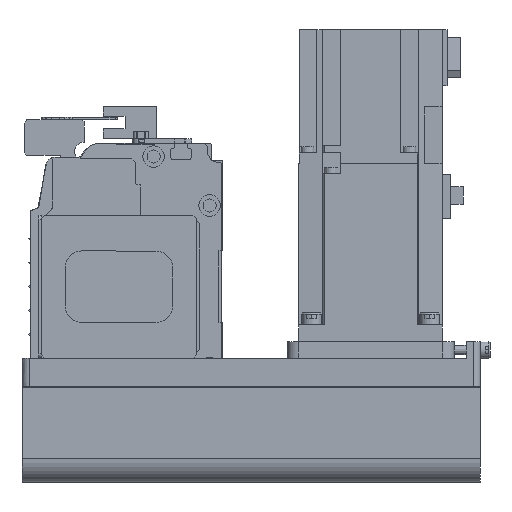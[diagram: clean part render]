
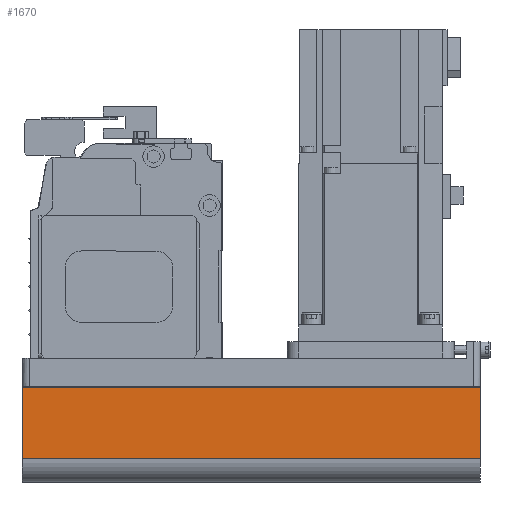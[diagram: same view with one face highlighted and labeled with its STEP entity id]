
A CAD part, left-side view. The second image highlights one B-rep face of the part: STEP entity #1670.
In plain terms, the highlighted planar face has unit normal (-1, 0, 0) as drawn and (0, 1, 0) by its records, which use the part's own axes.
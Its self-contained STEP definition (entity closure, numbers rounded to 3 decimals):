
#1670 = ADVANCED_FACE( '', ( #3730 ), #3731, .T. );
#3730 = FACE_OUTER_BOUND( '', #6218, .T. );
#3731 = PLANE( '', #6219 );
#6218 = EDGE_LOOP( '', ( #10837, #10838, #10839, #10840 ) );
#6219 = AXIS2_PLACEMENT_3D( '', #10841, #10842, #10843 );
#10837 = ORIENTED_EDGE( '', *, *, #15732, .F. );
#10838 = ORIENTED_EDGE( '', *, *, #14709, .F. );
#10839 = ORIENTED_EDGE( '', *, *, #15402, .T. );
#10840 = ORIENTED_EDGE( '', *, *, #15379, .T. );
#10841 = CARTESIAN_POINT( '', ( -192., 40., -42. ) );
#10842 = DIRECTION( '', ( 0., 1., 0. ) );
#10843 = DIRECTION( '', ( 0., 0., 1. ) );
#14709 = EDGE_CURVE( '', #17774, #17770, #17776, .T. );
#15379 = EDGE_CURVE( '', #18803, #18804, #18805, .T. );
#15402 = EDGE_CURVE( '', #17774, #18803, #18836, .T. );
#15732 = EDGE_CURVE( '', #17770, #18804, #19312, .T. );
#17770 = VERTEX_POINT( '', #21930 );
#17774 = VERTEX_POINT( '', #21935 );
#17776 = LINE( '', #21937, #21938 );
#18803 = VERTEX_POINT( '', #23312 );
#18804 = VERTEX_POINT( '', #23313 );
#18805 = LINE( '', #23314, #23315 );
#18836 = LINE( '', #23363, #23364 );
#19312 = LINE( '', #24007, #24008 );
#21930 = CARTESIAN_POINT( '', ( 0., 40., -42. ) );
#21935 = CARTESIAN_POINT( '', ( -192., 40., -42. ) );
#21937 = CARTESIAN_POINT( '', ( -192., 40., -42. ) );
#21938 = VECTOR( '', #26152, 1000. );
#23312 = CARTESIAN_POINT( '', ( -192., 40., -12.1 ) );
#23313 = CARTESIAN_POINT( '', ( 0., 40., -12.1 ) );
#23314 = CARTESIAN_POINT( '', ( -192., 40., -12.1 ) );
#23315 = VECTOR( '', #27001, 1000. );
#23363 = CARTESIAN_POINT( '', ( -192., 40., -42. ) );
#23364 = VECTOR( '', #27019, 1000. );
#24007 = CARTESIAN_POINT( '', ( 0., 40., -42. ) );
#24008 = VECTOR( '', #27427, 1000. );
#26152 = DIRECTION( '', ( 1., 0., 0. ) );
#27001 = DIRECTION( '', ( 1., 0., 0. ) );
#27019 = DIRECTION( '', ( 0., 0., 1. ) );
#27427 = DIRECTION( '', ( 0., 0., 1. ) );
